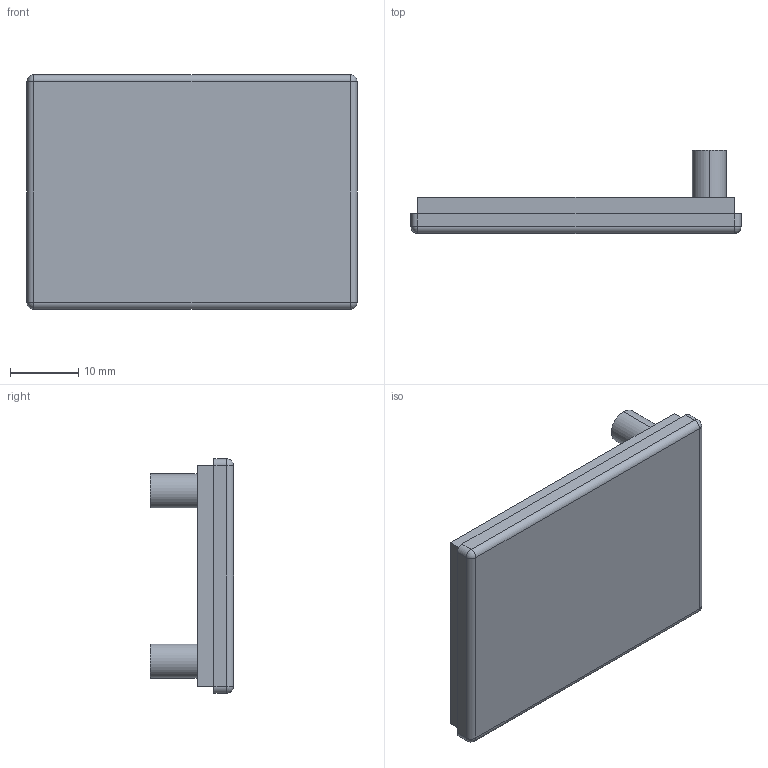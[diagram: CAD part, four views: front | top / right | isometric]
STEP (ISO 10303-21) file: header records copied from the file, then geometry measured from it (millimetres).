
FILE_DESCRIPTION (( 'STEP AP214' ), '1' );
FILE_NAME ('Tapa PP40.STEP', '2016-09-08T14:55:18', ( 'aaa' ), ( '' ), 'SwSTEP 2.0', 'SolidWorks 2013', '' );
FILE_SCHEMA (( 'AUTOMOTIVE_DESIGN' ));
Length unit declared in the file: millimetre
Products named in the file (1): Tapa PP40
Bounding box: 48.5 x 12.2 x 34.45 mm (x, y, z)
Volume: 3126.7 mm3; surface area: 5280.7 mm2
Topology: 1 solids, 1 shells, 40 faces, 88 edges, 52 vertices
Faces by surface type: plane 20, cylinder 16, sphere 4
Entity records: 1098 total; most frequent: DIRECTION 198, CARTESIAN_POINT 177, ORIENTED_EDGE 168, EDGE_CURVE 84, AXIS2_PLACEMENT_3D 73, VECTOR 52, LINE 52, VERTEX_POINT 52
